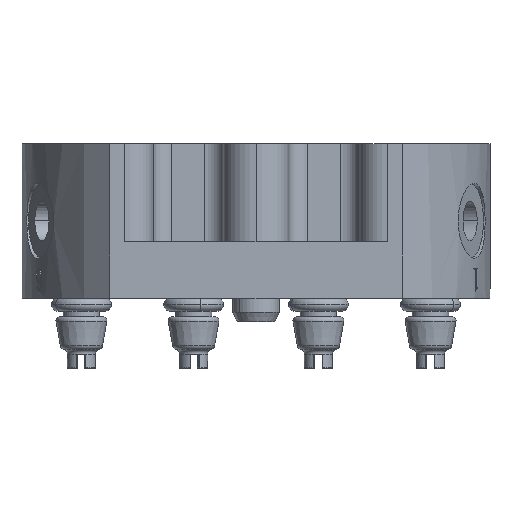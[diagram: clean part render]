
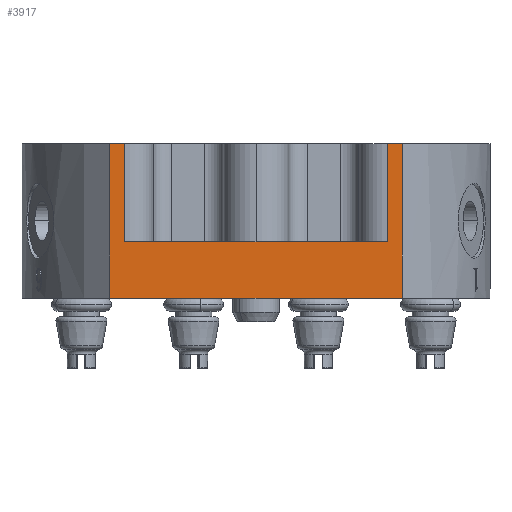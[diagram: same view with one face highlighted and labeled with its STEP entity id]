
A CAD part, front view. The second image highlights one B-rep face of the part: STEP entity #3917.
In plain terms, the highlighted planar face has unit normal (0, -1, 0).
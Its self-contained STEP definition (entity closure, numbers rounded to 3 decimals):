
#189 = VERTEX_POINT ( 'NONE', #11786 ) ;
#582 = CARTESIAN_POINT ( 'NONE',  ( -11., -19.5, -10.5 ) ) ;
#694 = ORIENTED_EDGE ( 'NONE', *, *, #10086, .T. ) ;
#1202 = VECTOR ( 'NONE', #14983, 1000. ) ;
#1227 = VECTOR ( 'NONE', #16299, 1000. ) ;
#1290 = DIRECTION ( 'NONE',  ( 0., 1., 0. ) ) ;
#1379 = DIRECTION ( 'NONE',  ( -1., 0., 0. ) ) ;
#1539 = CARTESIAN_POINT ( 'NONE',  ( -14., -19.5, -10.5 ) ) ;
#2077 = VECTOR ( 'NONE', #12972, 1000. ) ;
#2629 = EDGE_CURVE ( 'NONE', #189, #17524, #11015, .T. ) ;
#3168 = DIRECTION ( 'NONE',  ( 0., 0., 1. ) ) ;
#3738 = CARTESIAN_POINT ( 'NONE',  ( 3.5, -19.5, -10.5 ) ) ;
#3823 = DIRECTION ( 'NONE',  ( -1., 0., 0. ) ) ;
#3917 = ADVANCED_FACE ( 'NONE', ( #20373 ), #18652, .F. ) ;
#4162 = EDGE_CURVE ( 'NONE', #19426, #7291, #15936, .T. ) ;
#5041 = ORIENTED_EDGE ( 'NONE', *, *, #17187, .T. ) ;
#5042 = VECTOR ( 'NONE', #1379, 1000. ) ;
#5209 = AXIS2_PLACEMENT_3D ( 'NONE', #6096, #1290, #17202 ) ;
#5357 = ORIENTED_EDGE ( 'NONE', *, *, #11946, .F. ) ;
#6096 = CARTESIAN_POINT ( 'NONE',  ( -24.982, -19.5, -16.5 ) ) ;
#6261 = LINE ( 'NONE', #16617, #2077 ) ;
#7291 = VERTEX_POINT ( 'NONE', #19943 ) ;
#7361 = LINE ( 'NONE', #18684, #19459 ) ;
#7383 = LINE ( 'NONE', #9409, #10349 ) ;
#7557 = CARTESIAN_POINT ( 'NONE',  ( 0., -19.5, 0. ) ) ;
#7980 = LINE ( 'NONE', #7557, #5042 ) ;
#8097 = DIRECTION ( 'NONE',  ( 0., 0., -1. ) ) ;
#9353 = DIRECTION ( 'NONE',  ( 0., 0., -1. ) ) ;
#9409 = CARTESIAN_POINT ( 'NONE',  ( -14., -19.5, -16.5 ) ) ;
#9584 = LINE ( 'NONE', #582, #1227 ) ;
#9823 = LINE ( 'NONE', #10077, #1202 ) ;
#9871 = VERTEX_POINT ( 'NONE', #1539 ) ;
#10077 = CARTESIAN_POINT ( 'NONE',  ( 15.644, -19.5, -16.5 ) ) ;
#10086 = EDGE_CURVE ( 'NONE', #15384, #13357, #7980, .T. ) ;
#10349 = VECTOR ( 'NONE', #3168, 1000. ) ;
#10471 = LINE ( 'NONE', #11357, #13680 ) ;
#11015 = LINE ( 'NONE', #3738, #12487 ) ;
#11357 = CARTESIAN_POINT ( 'NONE',  ( 14., -19.5, -16.5 ) ) ;
#11786 = CARTESIAN_POINT ( 'NONE',  ( 0., -19.5, -10.5 ) ) ;
#11946 = EDGE_CURVE ( 'NONE', #15897, #15029, #6261, .T. ) ;
#12027 = CARTESIAN_POINT ( 'NONE',  ( 14., -19.5, 0. ) ) ;
#12487 = VECTOR ( 'NONE', #18038, 1000. ) ;
#12724 = CARTESIAN_POINT ( 'NONE',  ( 15.644, -19.5, -16.5 ) ) ;
#12972 = DIRECTION ( 'NONE',  ( -1., 0., 0. ) ) ;
#13228 = CARTESIAN_POINT ( 'NONE',  ( 15.644, -19.5, 0. ) ) ;
#13357 = VERTEX_POINT ( 'NONE', #12027 ) ;
#13680 = VECTOR ( 'NONE', #8097, 1000. ) ;
#14154 = ORIENTED_EDGE ( 'NONE', *, *, #17561, .F. ) ;
#14616 = ORIENTED_EDGE ( 'NONE', *, *, #4162, .T. ) ;
#14917 = ORIENTED_EDGE ( 'NONE', *, *, #2629, .F. ) ;
#14983 = DIRECTION ( 'NONE',  ( 0., 0., 1. ) ) ;
#15029 = VERTEX_POINT ( 'NONE', #18842 ) ;
#15384 = VERTEX_POINT ( 'NONE', #13228 ) ;
#15897 = VERTEX_POINT ( 'NONE', #12724 ) ;
#15936 = LINE ( 'NONE', #16547, #19849 ) ;
#15990 = EDGE_CURVE ( 'NONE', #9871, #19426, #7383, .T. ) ;
#16299 = DIRECTION ( 'NONE',  ( 1., 0., 0. ) ) ;
#16547 = CARTESIAN_POINT ( 'NONE',  ( 0., -19.5, 0. ) ) ;
#16607 = ORIENTED_EDGE ( 'NONE', *, *, #20352, .T. ) ;
#16617 = CARTESIAN_POINT ( 'NONE',  ( -24.982, -19.5, -16.5 ) ) ;
#17187 = EDGE_CURVE ( 'NONE', #7291, #15029, #7361, .T. ) ;
#17202 = DIRECTION ( 'NONE',  ( 0., 0., 1. ) ) ;
#17524 = VERTEX_POINT ( 'NONE', #19461 ) ;
#17548 = CARTESIAN_POINT ( 'NONE',  ( -14., -19.5, 0. ) ) ;
#17561 = EDGE_CURVE ( 'NONE', #9871, #189, #9584, .T. ) ;
#17676 = EDGE_CURVE ( 'NONE', #15897, #15384, #9823, .T. ) ;
#18038 = DIRECTION ( 'NONE',  ( 1., 0., 0. ) ) ;
#18652 = PLANE ( 'NONE',  #5209 ) ;
#18684 = CARTESIAN_POINT ( 'NONE',  ( -15.644, -19.5, -16.5 ) ) ;
#18842 = CARTESIAN_POINT ( 'NONE',  ( -15.644, -19.5, -16.5 ) ) ;
#19260 = ORIENTED_EDGE ( 'NONE', *, *, #15990, .T. ) ;
#19426 = VERTEX_POINT ( 'NONE', #17548 ) ;
#19459 = VECTOR ( 'NONE', #9353, 1000. ) ;
#19461 = CARTESIAN_POINT ( 'NONE',  ( 14., -19.5, -10.5 ) ) ;
#19849 = VECTOR ( 'NONE', #3823, 1000. ) ;
#19943 = CARTESIAN_POINT ( 'NONE',  ( -15.644, -19.5, 0. ) ) ;
#20274 = EDGE_LOOP ( 'NONE', ( #14154, #19260, #14616, #5041, #5357, #20362, #694, #16607, #14917 ) ) ;
#20352 = EDGE_CURVE ( 'NONE', #13357, #17524, #10471, .T. ) ;
#20362 = ORIENTED_EDGE ( 'NONE', *, *, #17676, .T. ) ;
#20373 = FACE_OUTER_BOUND ( 'NONE', #20274, .T. ) ;
